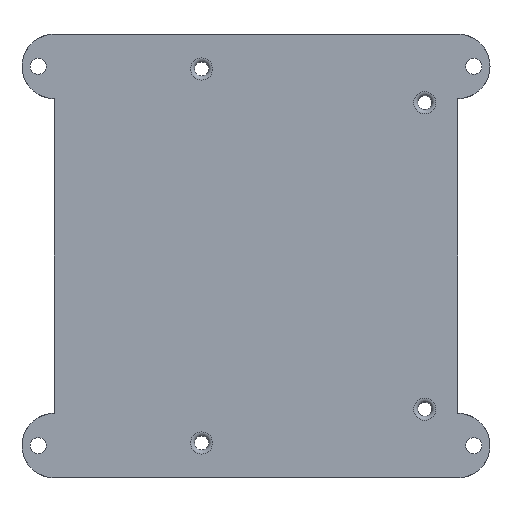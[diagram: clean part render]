
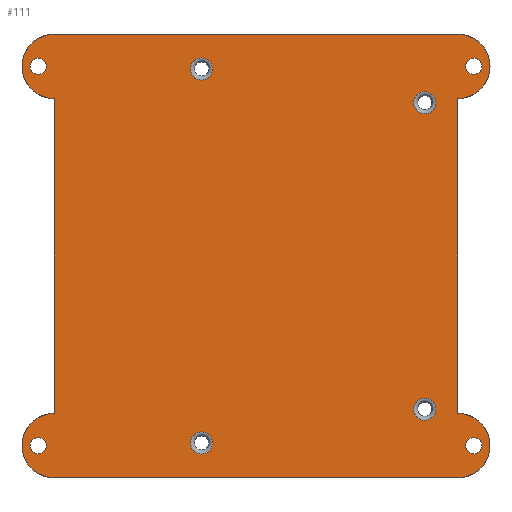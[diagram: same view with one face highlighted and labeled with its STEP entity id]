
A CAD part, left-side view. The second image highlights one B-rep face of the part: STEP entity #111.
In plain terms, the highlighted planar face has unit normal (-1, 0, 0).
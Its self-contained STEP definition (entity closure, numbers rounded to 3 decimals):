
#111=ADVANCED_FACE('',(#604,#606,#608,#610,#612,#614,#616,#618,#620),#622,.F.);
#604=FACE_BOUND('',#605,.T.);
#605=EDGE_LOOP('',(#1060,#1061,#1062,#1063,#1064,#1065,#1066,#1067));
#606=FACE_BOUND('',#607,.T.);
#607=EDGE_LOOP('',(#1068));
#608=FACE_BOUND('',#609,.T.);
#609=EDGE_LOOP('',(#1069));
#610=FACE_BOUND('',#611,.T.);
#611=EDGE_LOOP('',(#1070));
#612=FACE_BOUND('',#613,.T.);
#613=EDGE_LOOP('',(#1071));
#614=FACE_BOUND('',#615,.T.);
#615=EDGE_LOOP('',(#1072));
#616=FACE_BOUND('',#617,.T.);
#617=EDGE_LOOP('',(#1073));
#618=FACE_BOUND('',#619,.T.);
#619=EDGE_LOOP('',(#1074));
#620=FACE_BOUND('',#621,.T.);
#621=EDGE_LOOP('',(#1075));
#622=PLANE('',#623);
#623=AXIS2_PLACEMENT_3D('',#624,#625,#626);
#624=CARTESIAN_POINT('',(0.,0.,0.));
#625=DIRECTION('',(1.,0.,0.));
#626=DIRECTION('',(0.,1.,0.));
#1060=ORIENTED_EDGE('',*,*,#1271,.F.);
#1061=ORIENTED_EDGE('',*,*,#1308,.T.);
#1062=ORIENTED_EDGE('',*,*,#1309,.F.);
#1063=ORIENTED_EDGE('',*,*,#1310,.T.);
#1064=ORIENTED_EDGE('',*,*,#1281,.F.);
#1065=ORIENTED_EDGE('',*,*,#1311,.T.);
#1066=ORIENTED_EDGE('',*,*,#1312,.F.);
#1067=ORIENTED_EDGE('',*,*,#1313,.T.);
#1068=ORIENTED_EDGE('',*,*,#1314,.T.);
#1069=ORIENTED_EDGE('',*,*,#1315,.T.);
#1070=ORIENTED_EDGE('',*,*,#1316,.T.);
#1071=ORIENTED_EDGE('',*,*,#1317,.T.);
#1072=ORIENTED_EDGE('',*,*,#1318,.T.);
#1073=ORIENTED_EDGE('',*,*,#1319,.T.);
#1074=ORIENTED_EDGE('',*,*,#1320,.T.);
#1075=ORIENTED_EDGE('',*,*,#1321,.T.);
#1271=EDGE_CURVE('',#1396,#1399,#1400,.T.);
#1281=EDGE_CURVE('',#1417,#1419,#1420,.T.);
#1308=EDGE_CURVE('',#1396,#1470,#1472,.T.);
#1309=EDGE_CURVE('',#1473,#1470,#1474,.T.);
#1310=EDGE_CURVE('',#1473,#1419,#1475,.T.);
#1311=EDGE_CURVE('',#1417,#1476,#1477,.T.);
#1312=EDGE_CURVE('',#1478,#1476,#1479,.T.);
#1313=EDGE_CURVE('',#1478,#1399,#1480,.T.);
#1314=EDGE_CURVE('',#1481,#1481,#1482,.T.);
#1315=EDGE_CURVE('',#1483,#1483,#1484,.T.);
#1316=EDGE_CURVE('',#1485,#1485,#1486,.F.);
#1317=EDGE_CURVE('',#1487,#1487,#1488,.F.);
#1318=EDGE_CURVE('',#1489,#1489,#1490,.F.);
#1319=EDGE_CURVE('',#1491,#1491,#1492,.F.);
#1320=EDGE_CURVE('',#1493,#1493,#1494,.T.);
#1321=EDGE_CURVE('',#1495,#1495,#1496,.T.);
#1396=VERTEX_POINT('',#1614);
#1399=VERTEX_POINT('',#1619);
#1400=LINE('',#1620,#1621);
#1417=VERTEX_POINT('',#1656);
#1419=VERTEX_POINT('',#1660);
#1420=LINE('',#1661,#1662);
#1470=VERTEX_POINT('',#1804);
#1472=CIRCLE('',#1808,8.);
#1473=VERTEX_POINT('',#1812);
#1474=LINE('',#1813,#1814);
#1475=CIRCLE('',#1816,8.);
#1476=VERTEX_POINT('',#1820);
#1477=CIRCLE('',#1821,8.);
#1478=VERTEX_POINT('',#1825);
#1479=LINE('',#1826,#1827);
#1480=CIRCLE('',#1829,8.);
#1481=VERTEX_POINT('',#1833);
#1482=CIRCLE('',#1834,2.75);
#1483=VERTEX_POINT('',#1838);
#1484=CIRCLE('',#1839,2.75);
#1485=VERTEX_POINT('',#1843);
#1486=CIRCLE('',#1844,2.);
#1487=VERTEX_POINT('',#1848);
#1488=CIRCLE('',#1849,2.);
#1489=VERTEX_POINT('',#1853);
#1490=CIRCLE('',#1854,2.);
#1491=VERTEX_POINT('',#1858);
#1492=CIRCLE('',#1859,2.);
#1493=VERTEX_POINT('',#1863);
#1494=CIRCLE('',#1864,2.75);
#1495=VERTEX_POINT('',#1868);
#1496=CIRCLE('',#1869,2.75);
#1614=CARTESIAN_POINT('',(0.,0.,0.));
#1619=CARTESIAN_POINT('',(0.,100.,0.));
#1620=CARTESIAN_POINT('',(0.,0.,0.));
#1621=VECTOR('',#1622,1.);
#1622=DIRECTION('',(0.,1.,0.));
#1656=CARTESIAN_POINT('',(0.,100.,110.));
#1660=CARTESIAN_POINT('',(0.,0.,110.));
#1661=CARTESIAN_POINT('',(0.,100.,110.));
#1662=VECTOR('',#1663,1.);
#1663=DIRECTION('',(0.,-1.,0.));
#1804=CARTESIAN_POINT('',(0.,0.,16.));
#1808=AXIS2_PLACEMENT_3D('',#1809,#1810,#1811);
#1809=CARTESIAN_POINT('',(0.,0.,8.));
#1810=DIRECTION('',(-1.,0.,0.));
#1811=DIRECTION('',(0.,0.,-1.));
#1812=CARTESIAN_POINT('',(0.,0.,94.));
#1813=CARTESIAN_POINT('',(0.,0.,94.));
#1814=VECTOR('',#1815,1.);
#1815=DIRECTION('',(0.,0.,-1.));
#1816=AXIS2_PLACEMENT_3D('',#1817,#1818,#1819);
#1817=CARTESIAN_POINT('',(0.,0.,102.));
#1818=DIRECTION('',(-1.,0.,0.));
#1819=DIRECTION('',(0.,0.,-1.));
#1820=CARTESIAN_POINT('',(0.,100.,94.));
#1821=AXIS2_PLACEMENT_3D('',#1822,#1823,#1824);
#1822=CARTESIAN_POINT('',(0.,100.,102.));
#1823=DIRECTION('',(-1.,0.,0.));
#1824=DIRECTION('',(0.,0.,1.));
#1825=CARTESIAN_POINT('',(0.,100.,16.));
#1826=CARTESIAN_POINT('',(0.,100.,16.));
#1827=VECTOR('',#1828,1.);
#1828=DIRECTION('',(0.,0.,1.));
#1829=AXIS2_PLACEMENT_3D('',#1830,#1831,#1832);
#1830=CARTESIAN_POINT('',(0.,100.,8.));
#1831=DIRECTION('',(-1.,0.,0.));
#1832=DIRECTION('',(0.,0.,1.));
#1833=CARTESIAN_POINT('',(0.,66.25,8.65));
#1834=AXIS2_PLACEMENT_3D('',#1835,#1836,#1837);
#1835=CARTESIAN_POINT('',(0.,63.5,8.65));
#1836=DIRECTION('',(1.,0.,0.));
#1837=DIRECTION('',(0.,1.,0.));
#1838=CARTESIAN_POINT('',(0.,10.95,93.));
#1839=AXIS2_PLACEMENT_3D('',#1840,#1841,#1842);
#1840=CARTESIAN_POINT('',(0.,8.2,93.));
#1841=DIRECTION('',(1.,0.,0.));
#1842=DIRECTION('',(0.,1.,0.));
#1843=CARTESIAN_POINT('',(0.,-6.,8.));
#1844=AXIS2_PLACEMENT_3D('',#1845,#1846,#1847);
#1845=CARTESIAN_POINT('',(0.,-4.,8.));
#1846=DIRECTION('',(-1.,0.,0.));
#1847=DIRECTION('',(0.,-1.,0.));
#1848=CARTESIAN_POINT('',(0.,-6.,102.));
#1849=AXIS2_PLACEMENT_3D('',#1850,#1851,#1852);
#1850=CARTESIAN_POINT('',(0.,-4.,102.));
#1851=DIRECTION('',(-1.,0.,0.));
#1852=DIRECTION('',(0.,-1.,0.));
#1853=CARTESIAN_POINT('',(0.,102.,8.));
#1854=AXIS2_PLACEMENT_3D('',#1855,#1856,#1857);
#1855=CARTESIAN_POINT('',(0.,104.,8.));
#1856=DIRECTION('',(-1.,0.,0.));
#1857=DIRECTION('',(0.,-1.,0.));
#1858=CARTESIAN_POINT('',(0.,102.,102.));
#1859=AXIS2_PLACEMENT_3D('',#1860,#1861,#1862);
#1860=CARTESIAN_POINT('',(0.,104.,102.));
#1861=DIRECTION('',(-1.,0.,0.));
#1862=DIRECTION('',(0.,-1.,0.));
#1863=CARTESIAN_POINT('',(0.,66.25,101.35));
#1864=AXIS2_PLACEMENT_3D('',#1865,#1866,#1867);
#1865=CARTESIAN_POINT('',(0.,63.5,101.35));
#1866=DIRECTION('',(1.,0.,0.));
#1867=DIRECTION('',(0.,1.,0.));
#1868=CARTESIAN_POINT('',(0.,10.95,17.));
#1869=AXIS2_PLACEMENT_3D('',#1870,#1871,#1872);
#1870=CARTESIAN_POINT('',(0.,8.2,17.));
#1871=DIRECTION('',(1.,0.,0.));
#1872=DIRECTION('',(0.,1.,0.));
